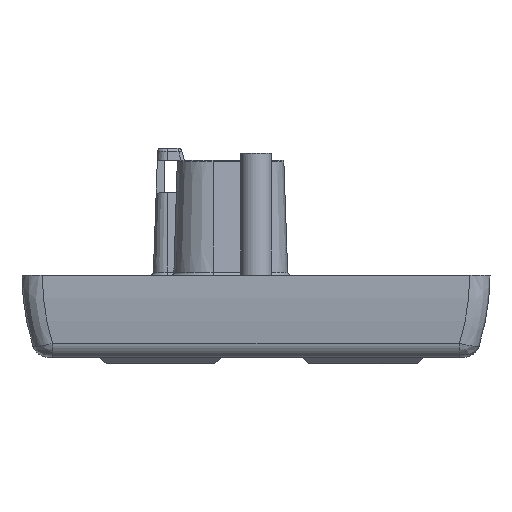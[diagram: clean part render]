
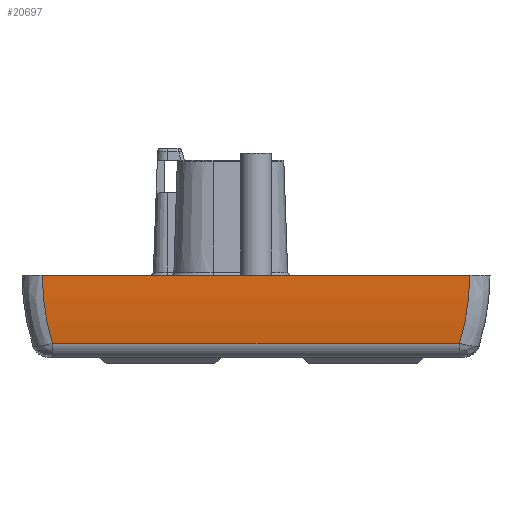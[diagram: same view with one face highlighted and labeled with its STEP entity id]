
A CAD part, left-side view. The second image highlights one B-rep face of the part: STEP entity #20697.
In plain terms, the highlighted cylindrical face has radius 73.952 mm (diameter 147.904 mm), a partial arc.
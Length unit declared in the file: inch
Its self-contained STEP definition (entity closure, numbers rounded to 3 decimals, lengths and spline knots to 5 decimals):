
#19650 = CARTESIAN_POINT ( 'NONE',  ( 0., 1.5, 0. ) ) ;
#19677 = DIRECTION ( 'NONE',  ( 0., -1., 0. ) ) ;
#19739 = CARTESIAN_POINT ( 'NONE',  ( 2.9115, -1.3155, 0.07161 ) ) ;
#19741 = CARTESIAN_POINT ( 'NONE',  ( 2.90886, -1.31018, 0.14267 ) ) ;
#19743 = CARTESIAN_POINT ( 'NONE',  ( 2.90109, -1.29428, 0.24846 ) ) ;
#19762 = DIRECTION ( 'NONE',  ( 0., 0., -1. ) ) ;
#19774 = FACE_OUTER_BOUND ( 'NONE', #20762, .T. ) ;
#19813 = AXIS2_PLACEMENT_3D ( 'NONE', #19650, #19677, #19762 ) ;
#19822 = CARTESIAN_POINT ( 'NONE',  ( 2.9115, -1.3155, 0. ) ) ;
#19893 = CARTESIAN_POINT ( 'NONE',  ( 2.89787, -1.28766, 0.2835 ) ) ;
#19895 = CARTESIAN_POINT ( 'NONE',  ( 2.89028, -1.27194, 0.35259 ) ) ;
#19897 = CARTESIAN_POINT ( 'NONE',  ( 2.8859, -1.26282, 0.38672 ) ) ;
#19899 = CARTESIAN_POINT ( 'NONE',  ( 2.88098, -1.25245, 0.42044 ) ) ;
#19972 = CYLINDRICAL_SURFACE ( 'NONE', #19813, 2.9115 ) ;
#19975 = B_SPLINE_CURVE_WITH_KNOTS ( 'NONE', 3,
 ( #19899, #19897, #19895, #19893, #19743, #19741, #19739, #19822 ),
 .UNSPECIFIED., .F., .F.,
 ( 4, 2, 2, 4 ),
 ( 0.00232, 0.00503, 0.00774, 0.01317 ),
 .UNSPECIFIED. ) ;
#20139 = DIRECTION ( 'NONE',  ( 0., 1., 0. ) ) ;
#20141 = VECTOR ( 'NONE', #20139, 39.37008 ) ;
#20221 = CARTESIAN_POINT ( 'NONE',  ( 2.9115, 1.3155, 0. ) ) ;
#20291 = LINE ( 'NONE', #20322, #20141 ) ;
#20305 = CARTESIAN_POINT ( 'NONE',  ( 2.88098, -1.25245, 0.42044 ) ) ;
#20322 = CARTESIAN_POINT ( 'NONE',  ( 2.9115, 1.4405, 0. ) ) ;
#20380 = CARTESIAN_POINT ( 'NONE',  ( 2.88098, 1.25245, 0.42044 ) ) ;
#20384 = CARTESIAN_POINT ( 'NONE',  ( 2.9115, -1.3155, 0. ) ) ;
#20697 = ADVANCED_FACE ( 'NONE', ( #19774 ), #19972, .T. ) ;
#20699 = ORIENTED_EDGE ( 'NONE', *, *, #20792, .T. ) ;
#20701 = EDGE_CURVE ( 'NONE', #20747, #20742, #19975, .T. ) ;
#20704 = ORIENTED_EDGE ( 'NONE', *, *, #20701, .T. ) ;
#20733 = VERTEX_POINT ( 'NONE', #20380 ) ;
#20742 = VERTEX_POINT ( 'NONE', #20384 ) ;
#20743 = VERTEX_POINT ( 'NONE', #20221 ) ;
#20745 = EDGE_CURVE ( 'NONE', #20742, #20743, #20291, .T. ) ;
#20747 = VERTEX_POINT ( 'NONE', #20305 ) ;
#20762 = EDGE_LOOP ( 'NONE', ( #20793, #20699, #20704, #20784 ) ) ;
#20775 = EDGE_CURVE ( 'NONE', #20743, #20733, #20995, .T. ) ;
#20784 = ORIENTED_EDGE ( 'NONE', *, *, #20745, .T. ) ;
#20792 = EDGE_CURVE ( 'NONE', #20733, #20747, #20827, .T. ) ;
#20793 = ORIENTED_EDGE ( 'NONE', *, *, #20775, .T. ) ;
#20812 = VECTOR ( 'NONE', #20832, 39.37008 ) ;
#20827 = LINE ( 'NONE', #20833, #20812 ) ;
#20832 = DIRECTION ( 'NONE',  ( 0., -1., 0. ) ) ;
#20833 = CARTESIAN_POINT ( 'NONE',  ( 2.88098, 1.5, 0.42044 ) ) ;
#20880 = CARTESIAN_POINT ( 'NONE',  ( 2.88098, 1.25245, 0.42044 ) ) ;
#20882 = CARTESIAN_POINT ( 'NONE',  ( 2.8859, 1.26282, 0.38672 ) ) ;
#20884 = CARTESIAN_POINT ( 'NONE',  ( 2.89028, 1.27194, 0.35259 ) ) ;
#20885 = CARTESIAN_POINT ( 'NONE',  ( 2.89787, 1.28766, 0.2835 ) ) ;
#20887 = CARTESIAN_POINT ( 'NONE',  ( 2.90109, 1.29428, 0.24846 ) ) ;
#20889 = CARTESIAN_POINT ( 'NONE',  ( 2.90886, 1.31018, 0.14267 ) ) ;
#20986 = CARTESIAN_POINT ( 'NONE',  ( 2.9115, 1.3155, 0.07161 ) ) ;
#20988 = CARTESIAN_POINT ( 'NONE',  ( 2.9115, 1.3155, 0. ) ) ;
#20995 = B_SPLINE_CURVE_WITH_KNOTS ( 'NONE', 3,
 ( #20988, #20986, #20889, #20887, #20885, #20884, #20882, #20880 ),
 .UNSPECIFIED., .F., .F.,
 ( 4, 2, 2, 4 ),
 ( 0., 0.00543, 0.00815, 0.01087 ),
 .UNSPECIFIED. ) ;
